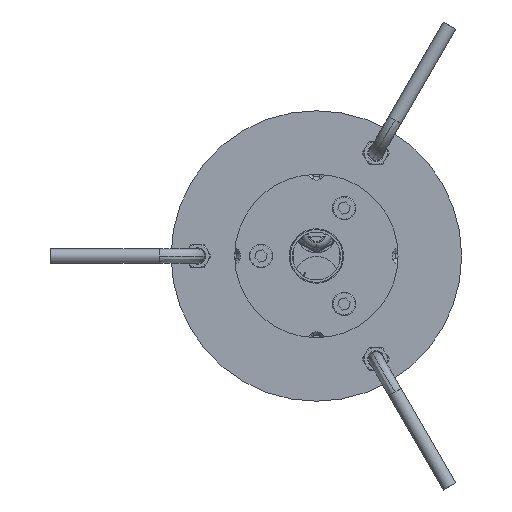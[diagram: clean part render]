
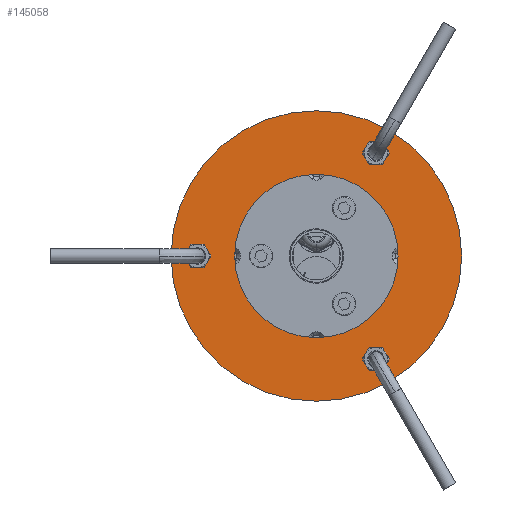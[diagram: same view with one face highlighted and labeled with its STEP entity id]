
A CAD part, front view. The second image highlights one B-rep face of the part: STEP entity #145058.
In plain terms, the highlighted planar face has unit normal (0, -1, 0) as drawn and (0, 0, 1) by its records, which use the part's own axes.
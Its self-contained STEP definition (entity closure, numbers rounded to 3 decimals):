
#144829=CARTESIAN_POINT('',(0.,0.,1.5));
#144830=DIRECTION('',(0.,0.,1.));
#144831=DIRECTION('',(1.,0.,0.));
#144832=AXIS2_PLACEMENT_3D('',#144829,#144830,#144831);
#144834=CARTESIAN_POINT('',(0.,0.,1.5));
#144835=DIRECTION('',(0.,0.,1.));
#144836=DIRECTION('',(-1.,0.,0.));
#144837=AXIS2_PLACEMENT_3D('',#144834,#144835,#144836);
#144839=CARTESIAN_POINT('',(0.,0.,1.5));
#144840=DIRECTION('',(0.,0.,-1.));
#144841=DIRECTION('',(1.,0.,0.));
#144842=AXIS2_PLACEMENT_3D('',#144839,#144840,#144841);
#144844=CARTESIAN_POINT('',(0.,0.,1.5));
#144845=DIRECTION('',(0.,0.,-1.));
#144846=DIRECTION('',(-1.,0.,0.));
#144847=AXIS2_PLACEMENT_3D('',#144844,#144845,#144846);
#144849=CARTESIAN_POINT('',(0.,-65.5,1.5));
#144850=DIRECTION('',(0.,0.,-1.));
#144851=DIRECTION('',(1.,0.,0.));
#144852=AXIS2_PLACEMENT_3D('',#144849,#144850,#144851);
#144854=CARTESIAN_POINT('',(0.,-65.5,1.5));
#144855=DIRECTION('',(0.,0.,-1.));
#144856=DIRECTION('',(-1.,0.,0.));
#144857=AXIS2_PLACEMENT_3D('',#144854,#144855,#144856);
#144859=CARTESIAN_POINT('',(-56.725,32.75,1.5));
#144860=DIRECTION('',(0.,0.,-1.));
#144861=DIRECTION('',(1.,0.,0.));
#144862=AXIS2_PLACEMENT_3D('',#144859,#144860,#144861);
#144864=CARTESIAN_POINT('',(-56.725,32.75,1.5));
#144865=DIRECTION('',(0.,0.,-1.));
#144866=DIRECTION('',(-1.,0.,0.));
#144867=AXIS2_PLACEMENT_3D('',#144864,#144865,#144866);
#144869=CARTESIAN_POINT('',(56.725,32.75,1.5));
#144870=DIRECTION('',(0.,0.,-1.));
#144871=DIRECTION('',(1.,0.,0.));
#144872=AXIS2_PLACEMENT_3D('',#144869,#144870,#144871);
#144874=CARTESIAN_POINT('',(56.725,32.75,1.5));
#144875=DIRECTION('',(0.,0.,-1.));
#144876=DIRECTION('',(-1.,0.,0.));
#144877=AXIS2_PLACEMENT_3D('',#144874,#144875,#144876);
#144907=CARTESIAN_POINT('',(-45.,0.,1.5));
#144908=CARTESIAN_POINT('',(45.,0.,1.5));
#144909=VERTEX_POINT('',#144907);
#144910=VERTEX_POINT('',#144908);
#144919=CARTESIAN_POINT('',(-61.225,32.75,1.5));
#144920=CARTESIAN_POINT('',(-52.225,32.75,1.5));
#144921=VERTEX_POINT('',#144919);
#144922=VERTEX_POINT('',#144920);
#144927=CARTESIAN_POINT('',(4.5,-65.5,1.5));
#144928=CARTESIAN_POINT('',(-4.5,-65.5,1.5));
#144929=VERTEX_POINT('',#144927);
#144930=VERTEX_POINT('',#144928);
#144935=CARTESIAN_POINT('',(61.225,32.75,1.5));
#144936=VERTEX_POINT('',#144935);
#144937=CARTESIAN_POINT('',(52.225,32.75,1.5));
#144938=VERTEX_POINT('',#144937);
#144943=CARTESIAN_POINT('',(80.,0.,1.5));
#144944=CARTESIAN_POINT('',(-80.,0.,1.5));
#144945=VERTEX_POINT('',#144943);
#144946=VERTEX_POINT('',#144944);
#145026=CARTESIAN_POINT('',(0.,0.,1.5));
#145027=DIRECTION('',(0.,0.,1.));
#145028=DIRECTION('',(1.,0.,0.));
#145029=AXIS2_PLACEMENT_3D('',#145026,#145027,#145028);
#145030=PLANE('',#145029);
#145031=ORIENTED_EDGE('',*,*,#145006,.F.);
#145032=ORIENTED_EDGE('',*,*,#145019,.F.);
#145033=EDGE_LOOP('',(#145031,#145032));
#145034=FACE_OUTER_BOUND('',#145033,.F.);
#145036=ORIENTED_EDGE('',*,*,#145035,.F.);
#145038=ORIENTED_EDGE('',*,*,#145037,.F.);
#145039=EDGE_LOOP('',(#145036,#145038));
#145040=FACE_BOUND('',#145039,.F.);
#145042=ORIENTED_EDGE('',*,*,#145041,.F.);
#145044=ORIENTED_EDGE('',*,*,#145043,.F.);
#145045=EDGE_LOOP('',(#145042,#145044));
#145046=FACE_BOUND('',#145045,.F.);
#145047=ORIENTED_EDGE('',*,*,#144956,.F.);
#145049=ORIENTED_EDGE('',*,*,#145048,.F.);
#145050=EDGE_LOOP('',(#145047,#145049));
#145051=FACE_BOUND('',#145050,.F.);
#145053=ORIENTED_EDGE('',*,*,#145052,.F.);
#145055=ORIENTED_EDGE('',*,*,#145054,.F.);
#145056=EDGE_LOOP('',(#145053,#145055));
#145057=FACE_BOUND('',#145056,.F.);
#145058=ADVANCED_FACE('',(#145034,#145040,#145046,#145051,#145057),#145030,.T.);
#144833=CIRCLE('',#144832,80.);
#144838=CIRCLE('',#144837,80.);
#144843=CIRCLE('',#144842,45.);
#144848=CIRCLE('',#144847,45.);
#144853=CIRCLE('',#144852,4.5);
#144858=CIRCLE('',#144857,4.5);
#144863=CIRCLE('',#144862,4.5);
#144868=CIRCLE('',#144867,4.5);
#144873=CIRCLE('',#144872,4.5);
#144878=CIRCLE('',#144877,4.5);
#144956=EDGE_CURVE('',#144922,#144921,#144863,.T.);
#145006=EDGE_CURVE('',#144945,#144946,#144833,.T.);
#145019=EDGE_CURVE('',#144946,#144945,#144838,.T.);
#145035=EDGE_CURVE('',#144910,#144909,#144843,.T.);
#145037=EDGE_CURVE('',#144909,#144910,#144848,.T.);
#145041=EDGE_CURVE('',#144929,#144930,#144853,.T.);
#145043=EDGE_CURVE('',#144930,#144929,#144858,.T.);
#145048=EDGE_CURVE('',#144921,#144922,#144868,.T.);
#145052=EDGE_CURVE('',#144936,#144938,#144873,.T.);
#145054=EDGE_CURVE('',#144938,#144936,#144878,.T.);
